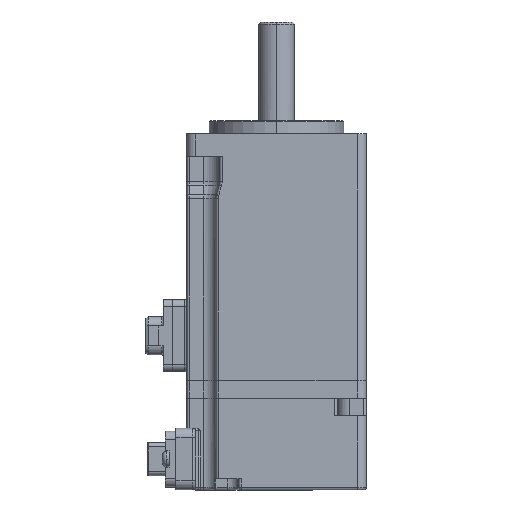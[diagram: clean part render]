
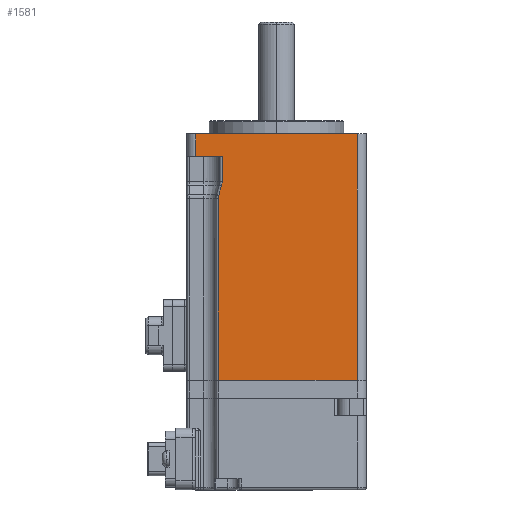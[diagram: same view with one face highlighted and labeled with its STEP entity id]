
A CAD part, top view. The second image highlights one B-rep face of the part: STEP entity #1581.
In plain terms, the highlighted planar face has unit normal (0, 0, 1).
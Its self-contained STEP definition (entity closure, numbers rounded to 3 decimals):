
#910 = VERTEX_POINT('',#911);
#911 = CARTESIAN_POINT('',(-18.,-61.992,20.));
#918 = EDGE_CURVE('',#919,#910,#921,.T.);
#919 = VERTEX_POINT('',#920);
#920 = CARTESIAN_POINT('',(-18.,-56.992,20.));
#921 = LINE('',#922,#923);
#922 = CARTESIAN_POINT('',(-18.,-53.992,20.));
#923 = VECTOR('',#924,1.);
#924 = DIRECTION('',(-0.,-1.,-0.));
#1451 = VERTEX_POINT('',#1452);
#1452 = CARTESIAN_POINT('',(-13.,-111.992,20.));
#1459 = EDGE_CURVE('',#1460,#1451,#1462,.T.);
#1460 = VERTEX_POINT('',#1461);
#1461 = CARTESIAN_POINT('',(-13.,-71.392,20.));
#1462 = LINE('',#1463,#1464);
#1463 = CARTESIAN_POINT('',(-13.,-53.992,20.));
#1464 = VECTOR('',#1465,1.);
#1465 = DIRECTION('',(-0.,-1.,-0.));
#1484 = EDGE_CURVE('',#1485,#1460,#1487,.T.);
#1485 = VERTEX_POINT('',#1486);
#1486 = CARTESIAN_POINT('',(-12.907,-70.718,20.));
#1487 = CIRCLE('',#1488,2.5);
#1488 = AXIS2_PLACEMENT_3D('',#1489,#1490,#1491);
#1489 = CARTESIAN_POINT('',(-10.5,-71.392,20.));
#1490 = DIRECTION('',(0.,0.,1.));
#1491 = DIRECTION('',(-1.,0.,0.));
#1510 = EDGE_CURVE('',#1511,#1485,#1513,.T.);
#1511 = VERTEX_POINT('',#1512);
#1512 = CARTESIAN_POINT('',(-12.293,-68.524,20.));
#1513 = LINE('',#1514,#1515);
#1514 = CARTESIAN_POINT('',(-8.935,-56.531,20.));
#1515 = VECTOR('',#1516,1.);
#1516 = DIRECTION('',(-0.27,-0.963,0.)
  );
#1535 = EDGE_CURVE('',#1536,#1511,#1538,.T.);
#1536 = VERTEX_POINT('',#1537);
#1537 = CARTESIAN_POINT('',(-12.163,-67.58,20.));
#1538 = CIRCLE('',#1539,3.5);
#1539 = AXIS2_PLACEMENT_3D('',#1540,#1541,#1542);
#1540 = CARTESIAN_POINT('',(-15.663,-67.58,20.));
#1541 = DIRECTION('',(0.,0.,-1.));
#1542 = DIRECTION('',(-1.,0.,0.));
#1561 = EDGE_CURVE('',#1562,#1536,#1564,.T.);
#1562 = VERTEX_POINT('',#1563);
#1563 = CARTESIAN_POINT('',(-12.163,-61.992,20.));
#1564 = LINE('',#1565,#1566);
#1565 = CARTESIAN_POINT('',(-12.163,-67.58,20.));
#1566 = VECTOR('',#1567,1.);
#1567 = DIRECTION('',(-0.,-1.,-0.));
#1581 = ADVANCED_FACE('',(#1582),#1618,.F.);
#1582 = FACE_BOUND('',#1583,.T.);
#1583 = EDGE_LOOP('',(#1584,#1590,#1591,#1592,#1593,#1594,#1595,#1603,
    #1611,#1617));
#1584 = ORIENTED_EDGE('',*,*,#1585,.T.);
#1585 = EDGE_CURVE('',#910,#1562,#1586,.T.);
#1586 = LINE('',#1587,#1588);
#1587 = CARTESIAN_POINT('',(-18.,-61.992,20.));
#1588 = VECTOR('',#1589,1.);
#1589 = DIRECTION('',(1.,0.,0.));
#1590 = ORIENTED_EDGE('',*,*,#1561,.T.);
#1591 = ORIENTED_EDGE('',*,*,#1535,.T.);
#1592 = ORIENTED_EDGE('',*,*,#1510,.T.);
#1593 = ORIENTED_EDGE('',*,*,#1484,.T.);
#1594 = ORIENTED_EDGE('',*,*,#1459,.T.);
#1595 = ORIENTED_EDGE('',*,*,#1596,.T.);
#1596 = EDGE_CURVE('',#1451,#1597,#1599,.T.);
#1597 = VERTEX_POINT('',#1598);
#1598 = CARTESIAN_POINT('',(18.,-111.992,20.));
#1599 = LINE('',#1600,#1601);
#1600 = CARTESIAN_POINT('',(-18.,-111.992,20.));
#1601 = VECTOR('',#1602,1.);
#1602 = DIRECTION('',(1.,0.,0.));
#1603 = ORIENTED_EDGE('',*,*,#1604,.F.);
#1604 = EDGE_CURVE('',#1605,#1597,#1607,.T.);
#1605 = VERTEX_POINT('',#1606);
#1606 = CARTESIAN_POINT('',(18.,-56.992,20.));
#1607 = LINE('',#1608,#1609);
#1608 = CARTESIAN_POINT('',(18.,-53.992,20.));
#1609 = VECTOR('',#1610,1.);
#1610 = DIRECTION('',(-0.,-1.,-0.));
#1611 = ORIENTED_EDGE('',*,*,#1612,.T.);
#1612 = EDGE_CURVE('',#1605,#919,#1613,.T.);
#1613 = LINE('',#1614,#1615);
#1614 = CARTESIAN_POINT('',(-18.,-56.992,20.));
#1615 = VECTOR('',#1616,1.);
#1616 = DIRECTION('',(-1.,0.,0.));
#1617 = ORIENTED_EDGE('',*,*,#918,.T.);
#1618 = PLANE('',#1619);
#1619 = AXIS2_PLACEMENT_3D('',#1620,#1621,#1622);
#1620 = CARTESIAN_POINT('',(-18.,-53.992,20.));
#1621 = DIRECTION('',(0.,0.,-1.));
#1622 = DIRECTION('',(-1.,0.,0.));
